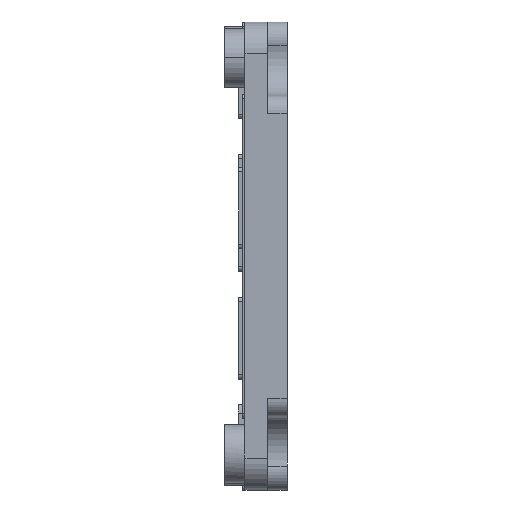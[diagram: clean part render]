
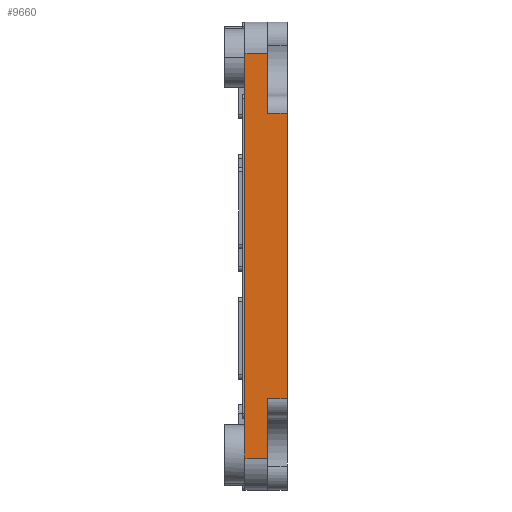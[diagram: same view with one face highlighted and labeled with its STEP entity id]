
A CAD part, left-side view. The second image highlights one B-rep face of the part: STEP entity #9660.
In plain terms, the highlighted planar face has unit normal (-1, 0, 0).
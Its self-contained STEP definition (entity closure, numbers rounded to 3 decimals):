
#136=DIRECTION('',(0.,0.,1.));
#137=VECTOR('',#136,31.753);
#138=CARTESIAN_POINT('',(-41.,0.,-15.876));
#139=LINE('',#138,#137);
#327=DIRECTION('',(0.,0.,1.));
#328=VECTOR('',#327,0.5);
#329=CARTESIAN_POINT('',(-41.,4.7,-22.5));
#330=LINE('',#329,#328);
#412=DIRECTION('',(0.,0.,1.));
#413=VECTOR('',#412,0.5);
#414=CARTESIAN_POINT('',(-41.,4.7,22.));
#415=LINE('',#414,#413);
#421=DIRECTION('',(0.,0.,1.));
#422=VECTOR('',#421,44.);
#423=CARTESIAN_POINT('',(-41.,4.7,-22.));
#424=LINE('',#423,#422);
#3409=DIRECTION('',(0.,1.,0.));
#3410=VECTOR('',#3409,2.2);
#3411=CARTESIAN_POINT('',(-41.,0.,15.876));
#3412=LINE('',#3411,#3410);
#3413=DIRECTION('',(0.,-1.,0.));
#3414=VECTOR('',#3413,2.2);
#3415=CARTESIAN_POINT('',(-41.,2.2,-15.876));
#3416=LINE('',#3415,#3414);
#3417=DIRECTION('',(0.,-1.,0.));
#3418=VECTOR('',#3417,2.5);
#3419=CARTESIAN_POINT('',(-41.,4.7,-22.5));
#3420=LINE('',#3419,#3418);
#3446=DIRECTION('',(0.,0.,1.));
#3447=VECTOR('',#3446,6.624);
#3448=CARTESIAN_POINT('',(-41.,2.2,15.876));
#3449=LINE('',#3448,#3447);
#3454=DIRECTION('',(0.,0.,1.));
#3455=VECTOR('',#3454,6.624);
#3456=CARTESIAN_POINT('',(-41.,2.2,-22.5));
#3457=LINE('',#3456,#3455);
#3584=DIRECTION('',(0.,1.,0.));
#3585=VECTOR('',#3584,2.5);
#3586=CARTESIAN_POINT('',(-41.,2.2,22.5));
#3587=LINE('',#3586,#3585);
#4343=CARTESIAN_POINT('',(-41.,0.,15.876));
#4344=VERTEX_POINT('',#4343);
#4345=CARTESIAN_POINT('',(-41.,2.2,15.876));
#4346=VERTEX_POINT('',#4345);
#4355=CARTESIAN_POINT('',(-41.,0.,-15.876));
#4357=VERTEX_POINT('',#4355);
#4361=CARTESIAN_POINT('',(-41.,2.2,-15.876));
#4362=VERTEX_POINT('',#4361);
#4375=CARTESIAN_POINT('',(-41.,2.2,-22.5));
#4376=VERTEX_POINT('',#4375);
#4379=CARTESIAN_POINT('',(-41.,2.2,22.5));
#4380=VERTEX_POINT('',#4379);
#4567=CARTESIAN_POINT('',(-41.,4.7,22.));
#4569=VERTEX_POINT('',#4567);
#4579=CARTESIAN_POINT('',(-41.,4.7,-22.5));
#4580=CARTESIAN_POINT('',(-41.,4.7,-22.));
#4581=VERTEX_POINT('',#4579);
#4582=VERTEX_POINT('',#4580);
#4583=CARTESIAN_POINT('',(-41.,4.7,22.5));
#4584=VERTEX_POINT('',#4583);
#9637=CARTESIAN_POINT('',(-41.,0.,-26.));
#9638=DIRECTION('',(-1.,0.,0.));
#9639=DIRECTION('',(0.,0.,1.));
#9640=AXIS2_PLACEMENT_3D('',#9637,#9638,#9639);
#9641=PLANE('',#9640);
#9643=ORIENTED_EDGE('',*,*,#9642,.F.);
#9644=ORIENTED_EDGE('',*,*,#5624,.T.);
#9645=ORIENTED_EDGE('',*,*,#5700,.T.);
#9646=ORIENTED_EDGE('',*,*,#5694,.T.);
#9648=ORIENTED_EDGE('',*,*,#9647,.F.);
#9650=ORIENTED_EDGE('',*,*,#9649,.F.);
#9652=ORIENTED_EDGE('',*,*,#9651,.F.);
#9653=ORIENTED_EDGE('',*,*,#5298,.F.);
#9655=ORIENTED_EDGE('',*,*,#9654,.F.);
#9657=ORIENTED_EDGE('',*,*,#9656,.F.);
#9658=EDGE_LOOP('',(#9643,#9644,#9645,#9646,#9648,#9650,#9652,#9653,#9655,
#9657));
#9659=FACE_OUTER_BOUND('',#9658,.F.);
#9660=ADVANCED_FACE('',(#9659),#9641,.T.);
#5298=EDGE_CURVE('',#4357,#4344,#139,.T.);
#5624=EDGE_CURVE('',#4581,#4582,#330,.T.);
#5694=EDGE_CURVE('',#4569,#4584,#415,.T.);
#5700=EDGE_CURVE('',#4582,#4569,#424,.T.);
#9642=EDGE_CURVE('',#4581,#4376,#3420,.T.);
#9647=EDGE_CURVE('',#4380,#4584,#3587,.T.);
#9649=EDGE_CURVE('',#4346,#4380,#3449,.T.);
#9651=EDGE_CURVE('',#4344,#4346,#3412,.T.);
#9654=EDGE_CURVE('',#4362,#4357,#3416,.T.);
#9656=EDGE_CURVE('',#4376,#4362,#3457,.T.);
